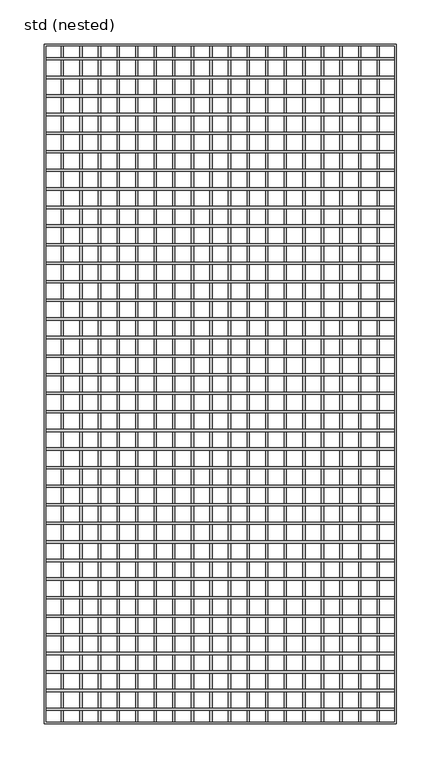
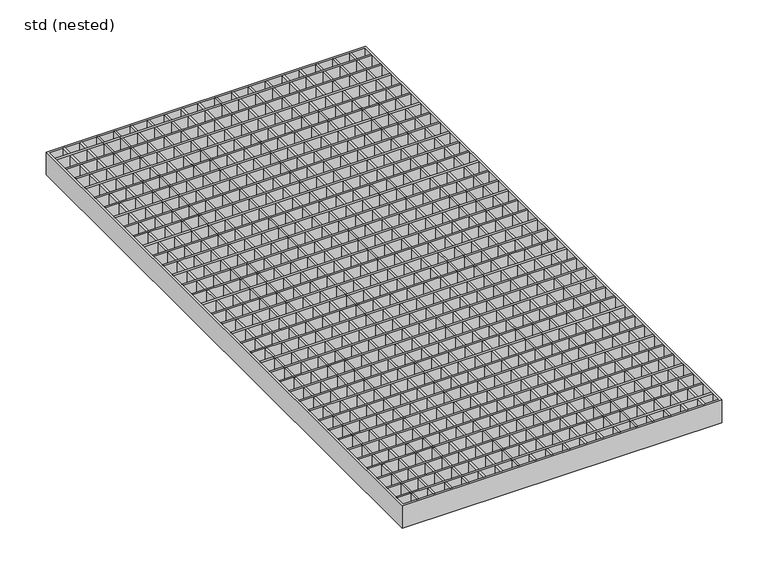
"""IFC4 building model written with IfcOpenShell, lengths in millimetres: sanitary terminal geometry, ZZZ_do not use_PF_ST_UN_grating for box channel_ACO : std (nested)."""

from ifc_helpers import new_model, si_unit, frame, origin, place, context, project, spatial, polyline, outline, extrude, source, transform, mapped, element, save


def std_nested_673e6eb0(model_context):
    return source(origin(), model_context, "Body", "SweptSolid", [
        extrude(outline(polyline([(196.5, -368.75), (-196.5, -368.75), (-196.5, -366.25), (196.5, -366.25), (196.5, -368.75)])), frame((0.0, 0.0, -20.0), z_axis=(0.0, 0.0, 1.0), x_axis=(1.0, 0.0, 0.0)), (0.0, 0.0, 1.0), 20.0),
        extrude(outline(polyline([(196.5, -347.75), (-196.5, -347.75), (-196.5, -345.25), (196.5, -345.25), (196.5, -347.75)])), frame((0.0, 0.0, -20.0), z_axis=(0.0, 0.0, 1.0), x_axis=(1.0, 0.0, 0.0)), (0.0, 0.0, 1.0), 20.0),
        extrude(outline(polyline([(196.5, -326.75), (-196.5, -326.75), (-196.5, -324.25), (196.5, -324.25), (196.5, -326.75)])), frame((0.0, 0.0, -20.0), z_axis=(0.0, 0.0, 1.0), x_axis=(1.0, 0.0, 0.0)), (0.0, 0.0, 1.0), 20.0),
        extrude(outline(polyline([(196.5, -305.75), (-196.5, -305.75), (-196.5, -303.25), (196.5, -303.25), (196.5, -305.75)])), frame((0.0, 0.0, -20.0), z_axis=(0.0, 0.0, 1.0), x_axis=(1.0, 0.0, 0.0)), (0.0, 0.0, 1.0), 20.0),
        extrude(outline(polyline([(196.5, -284.75), (-196.5, -284.75), (-196.5, -282.25), (196.5, -282.25), (196.5, -284.75)])), frame((0.0, 0.0, -20.0), z_axis=(0.0, 0.0, 1.0), x_axis=(1.0, 0.0, 0.0)), (0.0, 0.0, 1.0), 20.0),
        extrude(outline(polyline([(196.5, -263.75), (-196.5, -263.75), (-196.5, -261.25), (196.5, -261.25), (196.5, -263.75)])), frame((0.0, 0.0, -20.0), z_axis=(0.0, 0.0, 1.0), x_axis=(1.0, 0.0, 0.0)), (0.0, 0.0, 1.0), 20.0),
        extrude(outline(polyline([(196.5, -242.75), (-196.5, -242.75), (-196.5, -240.25), (196.5, -240.25), (196.5, -242.75)])), frame((0.0, 0.0, -20.0), z_axis=(0.0, 0.0, 1.0), x_axis=(1.0, 0.0, 0.0)), (0.0, 0.0, 1.0), 20.0),
        extrude(outline(polyline([(196.5, -221.75), (-196.5, -221.75), (-196.5, -219.25), (196.5, -219.25), (196.5, -221.75)])), frame((0.0, 0.0, -20.0), z_axis=(0.0, 0.0, 1.0), x_axis=(1.0, 0.0, 0.0)), (0.0, 0.0, 1.0), 20.0),
        extrude(outline(polyline([(196.5, -200.75), (-196.5, -200.75), (-196.5, -198.25), (196.5, -198.25), (196.5, -200.75)])), frame((0.0, 0.0, -20.0), z_axis=(0.0, 0.0, 1.0), x_axis=(1.0, 0.0, 0.0)), (0.0, 0.0, 1.0), 20.0),
        extrude(outline(polyline([(196.5, -179.75), (-196.5, -179.75), (-196.5, -177.25), (196.5, -177.25), (196.5, -179.75)])), frame((0.0, 0.0, -20.0), z_axis=(0.0, 0.0, 1.0), x_axis=(1.0, 0.0, 0.0)), (0.0, 0.0, 1.0), 20.0),
        extrude(outline(polyline([(196.5, 368.75), (196.5, 366.25), (-196.5, 366.25), (-196.5, 368.75), (196.5, 368.75)])), frame((0.0, 0.0, -20.0), z_axis=(0.0, 0.0, 1.0), x_axis=(1.0, 0.0, 0.0)), (0.0, 0.0, 1.0), 20.0),
        extrude(outline(polyline([(196.5, 347.75), (196.5, 345.25), (-196.5, 345.25), (-196.5, 347.75), (196.5, 347.75)])), frame((0.0, 0.0, -20.0), z_axis=(0.0, 0.0, 1.0), x_axis=(1.0, 0.0, 0.0)), (0.0, 0.0, 1.0), 20.0),
        extrude(outline(polyline([(196.5, 326.75), (196.5, 324.25), (-196.5, 324.25), (-196.5, 326.75), (196.5, 326.75)])), frame((0.0, 0.0, -20.0), z_axis=(0.0, 0.0, 1.0), x_axis=(1.0, 0.0, 0.0)), (0.0, 0.0, 1.0), 20.0),
        extrude(outline(polyline([(196.5, 305.75), (196.5, 303.25), (-196.5, 303.25), (-196.5, 305.75), (196.5, 305.75)])), frame((0.0, 0.0, -20.0), z_axis=(0.0, 0.0, 1.0), x_axis=(1.0, 0.0, 0.0)), (0.0, 0.0, 1.0), 20.0),
        extrude(outline(polyline([(196.5, 284.75), (196.5, 282.25), (-196.5, 282.25), (-196.5, 284.75), (196.5, 284.75)])), frame((0.0, 0.0, -20.0), z_axis=(0.0, 0.0, 1.0), x_axis=(1.0, 0.0, 0.0)), (0.0, 0.0, 1.0), 20.0),
        extrude(outline(polyline([(196.5, 263.75), (196.5, 261.25), (-196.5, 261.25), (-196.5, 263.75), (196.5, 263.75)])), frame((0.0, 0.0, -20.0), z_axis=(0.0, 0.0, 1.0), x_axis=(1.0, 0.0, 0.0)), (0.0, 0.0, 1.0), 20.0),
        extrude(outline(polyline([(196.5, 242.75), (196.5, 240.25), (-196.5, 240.25), (-196.5, 242.75), (196.5, 242.75)])), frame((0.0, 0.0, -20.0), z_axis=(0.0, 0.0, 1.0), x_axis=(1.0, 0.0, 0.0)), (0.0, 0.0, 1.0), 20.0),
        extrude(outline(polyline([(196.5, 221.75), (196.5, 219.25), (-196.5, 219.25), (-196.5, 221.75), (196.5, 221.75)])), frame((0.0, 0.0, -20.0), z_axis=(0.0, 0.0, 1.0), x_axis=(1.0, 0.0, 0.0)), (0.0, 0.0, 1.0), 20.0),
        extrude(outline(polyline([(196.5, 200.75), (196.5, 198.25), (-196.5, 198.25), (-196.5, 200.75), (196.5, 200.75)])), frame((0.0, 0.0, -20.0), z_axis=(0.0, 0.0, 1.0), x_axis=(1.0, 0.0, 0.0)), (0.0, 0.0, 1.0), 20.0),
        extrude(outline(polyline([(196.5, 179.75), (196.5, 177.25), (-196.5, 177.25), (-196.5, 179.75), (196.5, 179.75)])), frame((0.0, 0.0, -20.0), z_axis=(0.0, 0.0, 1.0), x_axis=(1.0, 0.0, 0.0)), (0.0, 0.0, 1.0), 20.0),
        extrude(outline(polyline([(196.5, -158.75), (-196.5, -158.75), (-196.5, -156.25), (196.5, -156.25), (196.5, -158.75)])), frame((0.0, 0.0, -20.0), z_axis=(0.0, 0.0, 1.0), x_axis=(1.0, 0.0, 0.0)), (0.0, 0.0, 1.0), 20.0),
        extrude(outline(polyline([(196.5, -137.75), (-196.5, -137.75), (-196.5, -135.25), (196.5, -135.25), (196.5, -137.75)])), frame((0.0, 0.0, -20.0), z_axis=(0.0, 0.0, 1.0), x_axis=(1.0, 0.0, 0.0)), (0.0, 0.0, 1.0), 20.0),
        extrude(outline(polyline([(196.5, -116.75), (-196.5, -116.75), (-196.5, -114.25), (196.5, -114.25), (196.5, -116.75)])), frame((0.0, 0.0, -20.0), z_axis=(0.0, 0.0, 1.0), x_axis=(1.0, 0.0, 0.0)), (0.0, 0.0, 1.0), 20.0),
        extrude(outline(polyline([(196.5, -95.75), (-196.5, -95.75), (-196.5, -93.25), (196.5, -93.25), (196.5, -95.75)])), frame((0.0, 0.0, -20.0), z_axis=(0.0, 0.0, 1.0), x_axis=(1.0, 0.0, 0.0)), (0.0, 0.0, 1.0), 20.0),
        extrude(outline(polyline([(196.5, -74.75), (-196.5, -74.75), (-196.5, -72.25), (196.5, -72.25), (196.5, -74.75)])), frame((0.0, 0.0, -20.0), z_axis=(0.0, 0.0, 1.0), x_axis=(1.0, 0.0, 0.0)), (0.0, 0.0, 1.0), 20.0),
        extrude(outline(polyline([(196.5, -53.75), (-196.5, -53.75), (-196.5, -51.25), (196.5, -51.25), (196.5, -53.75)])), frame((0.0, 0.0, -20.0), z_axis=(0.0, 0.0, 1.0), x_axis=(1.0, 0.0, 0.0)), (0.0, 0.0, 1.0), 20.0),
        extrude(outline(polyline([(196.5, -32.75), (-196.5, -32.75), (-196.5, -30.25), (196.5, -30.25), (196.5, -32.75)])), frame((0.0, 0.0, -20.0), z_axis=(0.0, 0.0, 1.0), x_axis=(1.0, 0.0, 0.0)), (0.0, 0.0, 1.0), 20.0),
        extrude(outline(polyline([(196.5, 158.75), (196.5, 156.25), (-196.5, 156.25), (-196.5, 158.75), (196.5, 158.75)])), frame((0.0, 0.0, -20.0), z_axis=(0.0, 0.0, 1.0), x_axis=(1.0, 0.0, 0.0)), (0.0, 0.0, 1.0), 20.0),
        extrude(outline(polyline([(196.5, 137.75), (196.5, 135.25), (-196.5, 135.25), (-196.5, 137.75), (196.5, 137.75)])), frame((0.0, 0.0, -20.0), z_axis=(0.0, 0.0, 1.0), x_axis=(1.0, 0.0, 0.0)), (0.0, 0.0, 1.0), 20.0),
        extrude(outline(polyline([(196.5, 116.75), (196.5, 114.25), (-196.5, 114.25), (-196.5, 116.75), (196.5, 116.75)])), frame((0.0, 0.0, -20.0), z_axis=(0.0, 0.0, 1.0), x_axis=(1.0, 0.0, 0.0)), (0.0, 0.0, 1.0), 20.0),
        extrude(outline(polyline([(196.5, 95.75), (196.5, 93.25), (-196.5, 93.25), (-196.5, 95.75), (196.5, 95.75)])), frame((0.0, 0.0, -20.0), z_axis=(0.0, 0.0, 1.0), x_axis=(1.0, 0.0, 0.0)), (0.0, 0.0, 1.0), 20.0),
        extrude(outline(polyline([(196.5, 74.75), (196.5, 72.25), (-196.5, 72.25), (-196.5, 74.75), (196.5, 74.75)])), frame((0.0, 0.0, -20.0), z_axis=(0.0, 0.0, 1.0), x_axis=(1.0, 0.0, 0.0)), (0.0, 0.0, 1.0), 20.0),
        extrude(outline(polyline([(196.5, 53.75), (196.5, 51.25), (-196.5, 51.25), (-196.5, 53.75), (196.5, 53.75)])), frame((0.0, 0.0, -20.0), z_axis=(0.0, 0.0, 1.0), x_axis=(1.0, 0.0, 0.0)), (0.0, 0.0, 1.0), 20.0),
        extrude(outline(polyline([(196.5, 32.75), (196.5, 30.25), (-196.5, 30.25), (-196.5, 32.75), (196.5, 32.75)])), frame((0.0, 0.0, -20.0), z_axis=(0.0, 0.0, 1.0), x_axis=(1.0, 0.0, 0.0)), (0.0, 0.0, 1.0), 20.0),
        extrude(outline(polyline([(196.5, 11.75), (196.5, 9.25), (-196.5, 9.25), (-196.5, 11.75), (196.5, 11.75)])), frame((0.0, 0.0, -20.0), z_axis=(0.0, 0.0, 1.0), x_axis=(1.0, 0.0, 0.0)), (0.0, 0.0, 1.0), 20.0),
        extrude(outline(polyline([(196.5, -11.75), (-196.5, -11.75), (-196.5, -9.25), (196.5, -9.25), (196.5, -11.75)])), frame((0.0, 0.0, -20.0), z_axis=(0.0, 0.0, 1.0), x_axis=(1.0, 0.0, 0.0)), (0.0, 0.0, 1.0), 20.0),
        extrude(outline(polyline([(-179.75, 381.5), (-177.25, 381.5), (-177.25, -381.5), (-179.75, -381.5), (-179.75, 381.5)])), frame((0.0, 0.0, -20.0), z_axis=(0.0, 0.0, 1.0), x_axis=(1.0, 0.0, 0.0)), (0.0, 0.0, 1.0), 20.0),
        extrude(outline(polyline([(-158.75, 381.5), (-156.25, 381.5), (-156.25, -381.5), (-158.75, -381.5), (-158.75, 381.5)])), frame((0.0, 0.0, -20.0), z_axis=(0.0, 0.0, 1.0), x_axis=(1.0, 0.0, 0.0)), (0.0, 0.0, 1.0), 20.0),
        extrude(outline(polyline([(-137.75, 381.5), (-135.25, 381.5), (-135.25, -381.5), (-137.75, -381.5), (-137.75, 381.5)])), frame((0.0, 0.0, -20.0), z_axis=(0.0, 0.0, 1.0), x_axis=(1.0, 0.0, 0.0)), (0.0, 0.0, 1.0), 20.0),
        extrude(outline(polyline([(-116.75, 381.5), (-114.25, 381.5), (-114.25, -381.5), (-116.75, -381.5), (-116.75, 381.5)])), frame((0.0, 0.0, -20.0), z_axis=(0.0, 0.0, 1.0), x_axis=(1.0, 0.0, 0.0)), (0.0, 0.0, 1.0), 20.0),
        extrude(outline(polyline([(-95.75, 381.5), (-93.25, 381.5), (-93.25, -381.5), (-95.75, -381.5), (-95.75, 381.5)])), frame((0.0, 0.0, -20.0), z_axis=(0.0, 0.0, 1.0), x_axis=(1.0, 0.0, 0.0)), (0.0, 0.0, 1.0), 20.0),
        extrude(outline(polyline([(-74.75, 381.5), (-72.25, 381.5), (-72.25, -381.5), (-74.75, -381.5), (-74.75, 381.5)])), frame((0.0, 0.0, -20.0), z_axis=(0.0, 0.0, 1.0), x_axis=(1.0, 0.0, 0.0)), (0.0, 0.0, 1.0), 20.0),
        extrude(outline(polyline([(-53.75, 381.5), (-51.25, 381.5), (-51.25, -381.5), (-53.75, -381.5), (-53.75, 381.5)])), frame((0.0, 0.0, -20.0), z_axis=(0.0, 0.0, 1.0), x_axis=(1.0, 0.0, 0.0)), (0.0, 0.0, 1.0), 20.0),
        extrude(outline(polyline([(-32.75, 381.5), (-30.25, 381.5), (-30.25, -381.5), (-32.75, -381.5), (-32.75, 381.5)])), frame((0.0, 0.0, -20.0), z_axis=(0.0, 0.0, 1.0), x_axis=(1.0, 0.0, 0.0)), (0.0, 0.0, 1.0), 20.0),
        extrude(outline(polyline([(179.75, 381.5), (179.75, -381.5), (177.25, -381.5), (177.25, 381.5), (179.75, 381.5)])), frame((0.0, 0.0, -20.0), z_axis=(0.0, 0.0, 1.0), x_axis=(1.0, 0.0, 0.0)), (0.0, 0.0, 1.0), 20.0),
        extrude(outline(polyline([(158.75, 381.5), (158.75, -381.5), (156.25, -381.5), (156.25, 381.5), (158.75, 381.5)])), frame((0.0, 0.0, -20.0), z_axis=(0.0, 0.0, 1.0), x_axis=(1.0, 0.0, 0.0)), (0.0, 0.0, 1.0), 20.0),
        extrude(outline(polyline([(137.75, 381.5), (137.75, -381.5), (135.25, -381.5), (135.25, 381.5), (137.75, 381.5)])), frame((0.0, 0.0, -20.0), z_axis=(0.0, 0.0, 1.0), x_axis=(1.0, 0.0, 0.0)), (0.0, 0.0, 1.0), 20.0),
        extrude(outline(polyline([(116.75, 381.5), (116.75, -381.5), (114.25, -381.5), (114.25, 381.5), (116.75, 381.5)])), frame((0.0, 0.0, -20.0), z_axis=(0.0, 0.0, 1.0), x_axis=(1.0, 0.0, 0.0)), (0.0, 0.0, 1.0), 20.0),
        extrude(outline(polyline([(95.75, 381.5), (95.75, -381.5), (93.25, -381.5), (93.25, 381.5), (95.75, 381.5)])), frame((0.0, 0.0, -20.0), z_axis=(0.0, 0.0, 1.0), x_axis=(1.0, 0.0, 0.0)), (0.0, 0.0, 1.0), 20.0),
        extrude(outline(polyline([(74.75, 381.5), (74.75, -381.5), (72.25, -381.5), (72.25, 381.5), (74.75, 381.5)])), frame((0.0, 0.0, -20.0), z_axis=(0.0, 0.0, 1.0), x_axis=(1.0, 0.0, 0.0)), (0.0, 0.0, 1.0), 20.0),
        extrude(outline(polyline([(53.75, 381.5), (53.75, -381.5), (51.25, -381.5), (51.25, 381.5), (53.75, 381.5)])), frame((0.0, 0.0, -20.0), z_axis=(0.0, 0.0, 1.0), x_axis=(1.0, 0.0, 0.0)), (0.0, 0.0, 1.0), 20.0),
        extrude(outline(polyline([(32.75, 381.5), (32.75, -381.5), (30.25, -381.5), (30.25, 381.5), (32.75, 381.5)])), frame((0.0, 0.0, -20.0), z_axis=(0.0, 0.0, 1.0), x_axis=(1.0, 0.0, 0.0)), (0.0, 0.0, 1.0), 20.0),
        extrude(outline(polyline([(-11.75, 381.5), (-9.25, 381.5), (-9.25, -381.5), (-11.75, -381.5), (-11.75, 381.5)])), frame((0.0, 0.0, -20.0), z_axis=(0.0, 0.0, 1.0), x_axis=(1.0, 0.0, 0.0)), (0.0, 0.0, 1.0), 20.0),
        extrude(outline(polyline([(11.75, 381.5), (11.75, -381.5), (9.25, -381.5), (9.25, 381.5), (11.75, 381.5)])), frame((0.0, 0.0, -20.0), z_axis=(0.0, 0.0, 1.0), x_axis=(1.0, 0.0, 0.0)), (0.0, 0.0, 1.0), 20.0),
        extrude(outline(polyline([(199.0, 384.0), (199.0, -384.0), (-199.0, -384.0), (-199.0, 384.0), (199.0, 384.0)]), holes=[polyline([(196.5, 381.5), (-196.5, 381.5), (-196.5, -381.5), (196.5, -381.5), (196.5, 381.5)])]), frame((0.0, 0.0, -30.0), z_axis=(0.0, 0.0, 1.0), x_axis=(1.0, 0.0, 0.0)), (0.0, 0.0, 1.0), 30.0),
    ])


if __name__ == "__main__":
    model = new_model("IFC4")
    model_context = context("Model", 3, world=origin())
    ifc_project = project(units=[si_unit("LENGTHUNIT", "METRE", prefix="MILLI")], contexts=[model_context])
    site = spatial("IfcSite", under=ifc_project)
    building = spatial("IfcBuilding", under=site)
    placement = place(None, origin())
    std_nested_shape = std_nested_673e6eb0(model_context)
    element("IfcSanitaryTerminal", 1, ObjectType="ZZZ_do not use_PF_ST_UN_grating for box channel_ACO : std (nested)", at=placement, inside=building, context=model_context, shape_type="MappedRepresentation", body=[
        mapped(std_nested_shape, transform((0.0, 0.0, 0.0), x_axis=(1.0, 0.0, 0.0), y_axis=(0.0, 1.0, 0.0), z_axis=(0.0, 0.0, 1.0))),
    ])
    save(model, "model.ifc")
